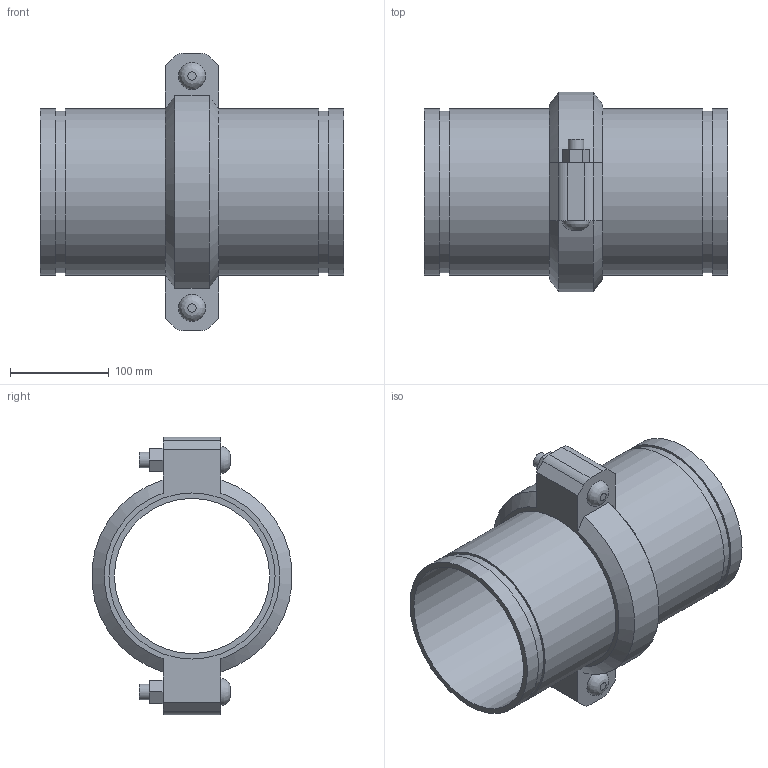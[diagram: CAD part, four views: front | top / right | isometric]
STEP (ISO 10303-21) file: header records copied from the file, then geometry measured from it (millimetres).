
FILE_DESCRIPTION(/* description */ ('VIC SS EXPANSION JOINT 1 COUPLING NEUTRAL STYLE 155P (OGS) (POTABLE WATER) ','CAx-IF Rec.Pracs.---Representation and Presentation of Product Manufacturing Information (PMI)---4.0---2014-10-13'),/* implementation_level */ '2;1');
FILE_NAME(/* name */ 'C:\Users\kkamble\AppData\Roaming\Autodesk\ApplicationPlugins\Victaulic.Temp\A585\Victaulic_SS_Expansion Joint_Neutral_1 Coupling_Style 155P (OGS)-Potable Water_1 Coup_Neut_6 (150).stp',/* time_stamp */ '2021-07-16T16:25:59+06:00',/* author */ ('kkamble'),/* organization */ ('Victaulic'),/* preprocessor_version */ 'ST-DEVELOPER v17.2',/* originating_system */ 'Autodesk Inventor 2019',/* authorisation */ '');
FILE_SCHEMA (('AP242_MANAGED_MODEL_BASED_3D_ENGINEERING_MIM_LF { 1 0 10303 442 1 1 4 }'));
Length unit declared in the file: inch
Products named in the file (3): 155P-06.0; Nipple-06.0; 075-06.0
Assembly tree (3 placements, depth 2):
  155P-06.0
    Nipple-06.0  x2
    075-06.0
Bounding box: 307.34 x 202.46 x 281.18 mm (x, y, z)
Volume: 1578805.3 mm3; surface area: 444677.8 mm2
Topology: 3 solids, 5 shells, 81 faces, 193 edges, 138 vertices
Faces by surface type: plane 48, cylinder 27, cone 4, bspline 2
Full cylindrical faces by diameter (mm): 15.875 x4, 17.424 x2, 157.15 x2, 161.925 x1, 163.957 x4, 168.275 x8
Entity records: 2292 total; most frequent: CARTESIAN_POINT 420, DIRECTION 369, ORIENTED_EDGE 326, EDGE_CURVE 163, AXIS2_PLACEMENT_3D 141, VERTEX_POINT 114, EDGE_LOOP 89, LINE 87
